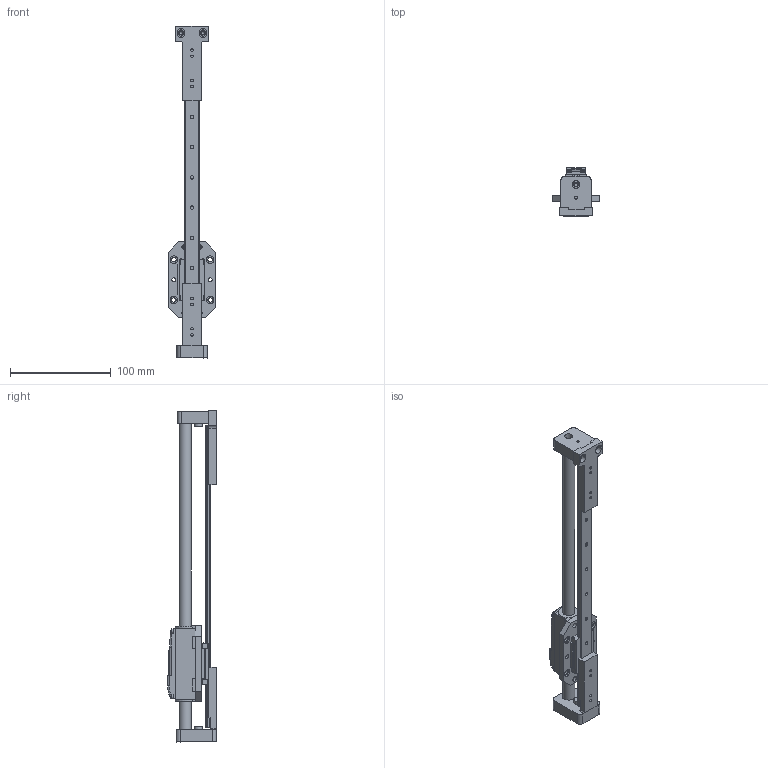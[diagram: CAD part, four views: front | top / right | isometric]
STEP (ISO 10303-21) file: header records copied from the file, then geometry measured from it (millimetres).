
FILE_DESCRIPTION(('FreeCAD Model'),'2;1');
FILE_NAME('C:/Users/Patrik/Desktop/FreeCAD/0000-0200 Lineární aktuátor, LM statický/LA_LMMR-09-220.step','2019-04-22T20:12:49',('Author'),(''), 'Open CASCADE STEP processor 7.3','FreeCAD','Unknown');
FILE_SCHEMA(('AUTOMOTIVE_DESIGN { 1 0 10303 214 1 1 1 1 }'));
Length unit declared in the file: millimetre
Products named in the file (14): Zdvih_220; Static004; Chamfer004; LG002; LG001; Alle_Motoren007; Moving004; Pocket007; Body014; Body012; LG; Alle_Motoren009; _K0571.00800863; _K0571.00800864
Assembly tree (13 placements, depth 4):
  Zdvih_220
    Static004
      Chamfer004
      LG002
        LG001
      Alle_Motoren007
    Moving004
      Pocket007
      Body014
      Body012
      LG
      Alle_Motoren009
      _K0571.00800863
      _K0571.00800864
Bounding box: 46 x 48.4 x 329 mm (x, y, z)
Volume: 146796.6 mm3; surface area: 67434.1 mm2
Topology: 10 solids, 10 shells, 586 faces, 1458 edges, 954 vertices
Faces by surface type: plane 310, cylinder 239, cone 21, revolution 8, torus 6, extrusion 2
Full cylindrical faces by diameter (mm): 2.05 x4, 2.5 x10, 3 x6, 3.3 x8, 3.5 x4, 4 x5, 4.5 x8, 4.6 x2, 5 x4, 6 x4, 7.5 x8, 7.7 x2, 8 x2, 9 x2, 12 x1, 12.08 x1, 12.4 x2, 19.9 x2
Entity records: 38675 total; most frequent: CARTESIAN_POINT 9288, DIRECTION 5431, VECTOR 3042, LINE 3040, ORIENTED_EDGE 2882, PCURVE 2882, DEFINITIONAL_REPRESENTATION 2882, EDGE_CURVE 1441
